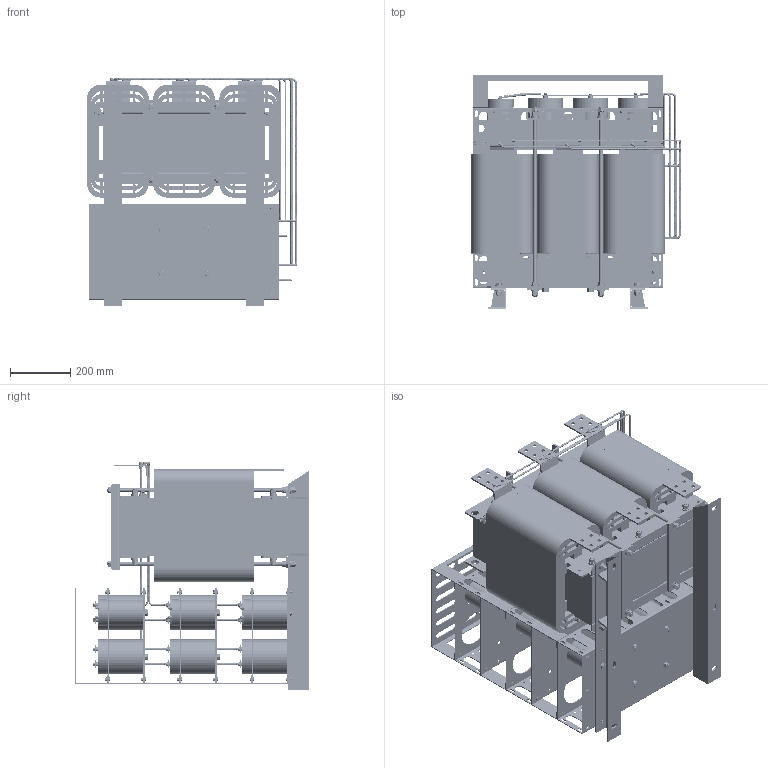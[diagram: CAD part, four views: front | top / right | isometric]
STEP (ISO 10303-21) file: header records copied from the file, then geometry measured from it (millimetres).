
FILE_DESCRIPTION(('STEP AP203'), '1');
FILE_NAME('蔓躅漤铋 耔眢耥 翳朦蝠 _ ISINOF-800_840-6', '', ('UNSPECIFIED'), ('UNSPECIFIED'), 'C3D Converter', 'C3D Toolkit', '');
FILE_SCHEMA(('CONFIG_CONTROL_DESIGN'));
Length unit declared in the file: millimetre
Products named in the file (68): ISINOF-800/840-6; А降еМх560-100-2; ЖЅ豹X2\043504560415\X0\豹X2\0435\X0\12x40x330; ЖЅ豹X2\043504560415\X0\豹X2\0435\X0\20x40x330; ИэПаМъ540-560-191; ЙПјРјю; ПЯИ¦765A; ПВјРјю; №么X2\04270426041C0445\X0\12x10x330; ЖЅ豹X2\043504560415041C0445\X0\12x5x330; plain washers--product grade c gb_GB_FASTENER_WASHER_SMWC 12; spring lock washers--normal type gb_GB_FASTENER_WASHER_SW 12; hexagon nuts grade c gb_GB_FASTENER_NUT_SNC1 M12-N; M12x255; 吒X2\0425\X0\116-150; UРНС№Мх 60x30x6; 琵X2\04270405041504230422\X0\; 琵X2\04270405041504270443\X0\; 琵X2\04370418042D0458042C\X0\; 琵X2\04370418042D0426\X0\吭X2\04560415\X0\; ї琵X2\041E\X0\做зЧУKV223-2P; С№豹X2\0435\X0\; 吒X2\0425\X0\86-145; hex head bolts-full thread grade c gb_GB_FASTENER_BOLT_HHBFTC M12X35-N; M12X630; Б枯X2\0405042304150415\X0\; RNB14-6S; plain washers--product grade c gb_GB_FASTENER_WASHER_SMWC 6; hex head bolts-full thread grade c gb_GB_FASTENER_BOLT_HHBFTC M6X12-N; ёІН苒X2\04120411041504150419041F\X0\; ДёЕЕПВ; spring lock washers--normal type gb_GB_FASTENER_WASHER_SW 6; hexagon nuts grade c gb_GB_FASTENER_NUT_SNC1 M6-N; hex head bolts-full thread grade c gb_GB_FASTENER_BOLT_HHBFTC M6X20-N; Cable_1-ИэПаХэПТІЁВЛІЁЖчSKS-SF-0765-6AЈЇ05-001; 琵X2\043704100412\X0\^Cable_1-ИэПаХэПТІЁВЛІЁЖчSKS-SF-0765-6AЈЇ05-001; Cable_2-ИэПаХэПТІЁВЛІЁЖчSKS-SF-0765-6AЈЇ05; 琵X2\043704100412\X0\^Cable_2-ИэПаХэПТІЁВЛІЁЖчSKS-SF-0765-6AЈЇ05; Cable_4-ИэПаХэПТІЁВЛІЁЖчSKS-SF-0765-6AЈЇ05; 琵X2\043704100412\X0\^Cable_4-ИэПаХэПТІЁВЛІЁЖчSKS-SF-0765-6AЈЇ05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
Assembly tree (485 placements, depth 3):
  ISINOF-800/840-6
    А降еМх560-100-2  x6
    ЖЅ豹X2\043504560415\X0\豹X2\0435\X0\12x40x330  x13
    ЖЅ豹X2\043504560415\X0\豹X2\0435\X0\20x40x330  x6
    ИэПаМъ540-560-191
    ЙПјРјю  x2
    ПЯИ¦765A  x3
    ПВјРјю
    №么X2\04270426041C0445\X0\12x10x330  x24
    ЖЅ豹X2\043504560415041C0445\X0\12x5x330  x12
    plain washers--product grade c gb_GB_FASTENER_WASHER_SMWC 12  x48
    spring lock washers--normal type gb_GB_FASTENER_WASHER_SW 12  x24
    hexagon nuts grade c gb_GB_FASTENER_NUT_SNC1 M12-N  x53
    M12x255  x6
    吒X2\0425\X0\116-150  x18
    UРНС№Мх 60x30x6  x2
    琵X2\04270405041504230422\X0\
    琵X2\04270405041504270443\X0\
    琵X2\04370418042D0458042C\X0\  x3
    琵X2\04370418042D0426\X0\吭X2\04560415\X0\  x4
    ї琵X2\041E\X0\做зЧУKV223-2P
    С№豹X2\0435\X0\  x2
    吒X2\0425\X0\86-145  x3
    hex head bolts-full thread grade c gb_GB_FASTENER_BOLT_HHBFTC M12X35-N  x4
    M12X630  x4
    Б枯X2\0405042304150415\X0\  x12
    RNB14-6S  x30
    plain washers--product grade c gb_GB_FASTENER_WASHER_SMWC 6  x78
    hex head bolts-full thread grade c gb_GB_FASTENER_BOLT_HHBFTC M6X12-N  x62
    ёІН苒X2\04120411041504150419041F\X0\  x3
    ДёЕЕПВ  x3
    spring lock washers--normal type gb_GB_FASTENER_WASHER_SW 6  x6
    hexagon nuts grade c gb_GB_FASTENER_NUT_SNC1 M6-N  x6
    hex head bolts-full thread grade c gb_GB_FASTENER_BOLT_HHBFTC M6X20-N  x6
    Cable_1-ИэПаХэПТІЁВЛІЁЖчSKS-SF-0765-6AЈЇ05-001
      琵X2\043704100412\X0\^Cable_1-ИэПаХэПТІЁВЛІЁЖчSKS-SF-0765-6AЈЇ05-001
    Cable_2-ИэПаХэПТІЁВЛІЁЖчSKS-SF-0765-6AЈЇ05
      琵X2\043704100412\X0\^Cable_2-ИэПаХэПТІЁВЛІЁЖчSKS-SF-0765-6AЈЇ05
    Cable_4-ИэПаХэПТІЁВЛІЁЖчSKS-SF-0765-6AЈЇ05
      琵X2\043704100412\X0\^Cable_4-ИэПаХэПТІЁВЛІЁЖчSKS-SF-0765-6AЈЇ05
    Cable_5-ИэПаХэПТІЁВЛІЁЖчSKS-SF-0765-6AЈЇ05
      琵X2\043704100412\X0\^Cable_5-ИэПаХэПТІЁВЛІЁЖчSKS-SF-0765-6AЈЇ05
    Cable_6-ИэПаХэПТІЁВЛІЁЖчSKS-SF-0765-6AЈЇ05
      琵X2\043704100412\X0\^Cable_6-ИэПаХэПТІЁВЛІЁЖчSKS-SF-0765-6AЈЇ05
    Cable_7-ИэПаХэПТІЁВЛІЁЖчSKS-SF-0765-6AЈЇ05
      琵X2\043704100412\X0\^Cable_7-ИэПаХэПТІЁВЛІЁЖчSKS-SF-0765-6AЈЇ05
    Cable_8-ИэПаХэПТІЁВЛІЁЖчSKS-SF-0765-6AЈЇ05
      琵X2\043704100412\X0\^Cable_8-ИэПаХэПТІЁВЛІЁЖчSKS-SF-0765-6AЈЇ05
    Cable_9-ИэПаХэПТІЁВЛІЁЖчSKS-SF-0765-6AЈЇ05
      琵X2\043704100412\X0\^Cable_9-ИэПаХэПТІЁВЛІЁЖчSKS-SF-0765-6AЈЇ05
    Cable_10-ИэПаХэПТІЁВЛІЁЖчSKS-SF-0765-6AЈЇ05
      琵X2\043704100412\X0\^Cable_10-ИэПаХэПТІЁВЛІЁЖчSKS-SF-0765-6AЈЇ05
    Cable_11-ИэПаХэПТІЁВЛІЁЖчSKS-SF-0765-6AЈЇ05
      琵X2\043704100412\X0\^Cable_11-ИэПаХэПТІЁВЛІЁЖчSKS-SF-0765-6AЈЇ05
    Cable_12-ИэПаХэПТІЁВЛІЁЖчSKS-SF-0765-6AЈЇ05
      琵X2\043704100412\X0\^Cable_12-ИэПаХэПТІЁВЛІЁЖчSKS-SF-0765-6AЈЇ05
    Cable_13-ИэПаХэПТІЁВЛІЁЖчSKS-SF-0765-6AЈЇ05
      琵X2\043704100412\X0\^Cable_13-ИэПаХэПТІЁВЛІЁЖчSKS-SF-0765-6AЈЇ05
    Cable_14-ИэПаХэПТІЁВЛІЁЖчSKS-SF-0765-6AЈЇ05
      琵X2\043704100412\X0\^Cable_14-ИэПаХэПТІЁВЛІЁЖчSKS-SF-0765-6AЈЇ05
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Bounding box: 698.12 x 780 x 759 mm (x, y, z)
Volume: 124775016.2 mm3; surface area: 16138634.3 mm2
Topology: 542 solids, 542 shells, 7151 faces, 16047 edges, 10408 vertices
Faces by surface type: plane 4168, cylinder 2098, cone 783, bspline 60, torus 42
Full cylindrical faces by diameter (mm): 3 x2, 3.8 x2, 4 x4, 4.917 x6, 6 x182, 6.2 x30, 6.4 x30, 6.6 x78, 6.68 x6, 7 x54, 8 x6, 9.88 x6, 10.106 x53, 12 x159, 12.5 x6, 12.9 x24, 13 x24, 13.5 x48, 14 x74, 16 x48, 19.1 x24, 24 x48, 25 x4, 36.4 x1, 38 x1, 40 x1, 63 x6, 75 x6, 86 x6, 90 x6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
Entity records: 103113 total; most frequent: CARTESIAN_POINT 38352, DIRECTION 8635, ORIENTED_EDGE 7550, EDGE_CURVE 3775, AXIS2_PLACEMENT_3D 3115, VERTEX_POINT 2632, LINE 2405, VECTOR 2405
